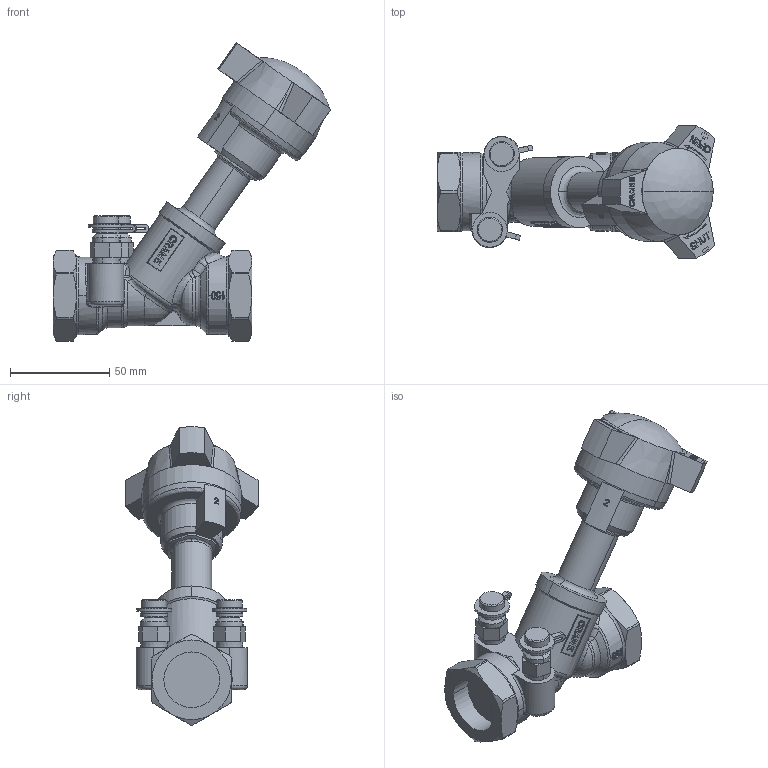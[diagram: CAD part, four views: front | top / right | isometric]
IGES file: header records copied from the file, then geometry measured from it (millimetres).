
Global section: file name: No Iges File Name specified; native system: AutoDesk Inventor R12.0; preprocessor: AutoDesk Inventor Iges Exporter R12.0; date: 20110304.150349; units: millimetre
Bounding box: 139.7 x 66.44 x 149.98 mm (x, y, z)
Volume: 231283.2 mm3; surface area: 38490.5 mm2
Topology: 1 solids, 1 shells, 829 faces, 2234 edges, 1462 vertices
Faces by surface type: bspline 338, plane 333, cylinder 90, cone 48, torus 10, revolution 8, sphere 2
